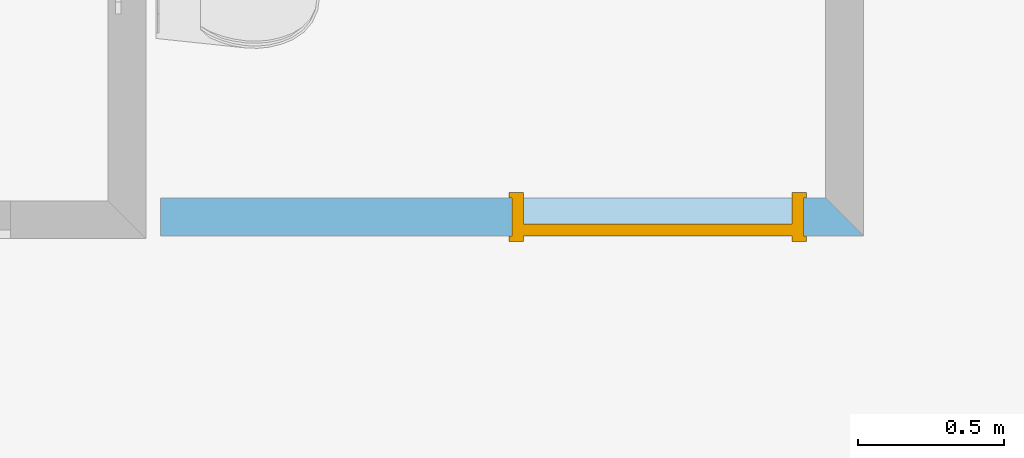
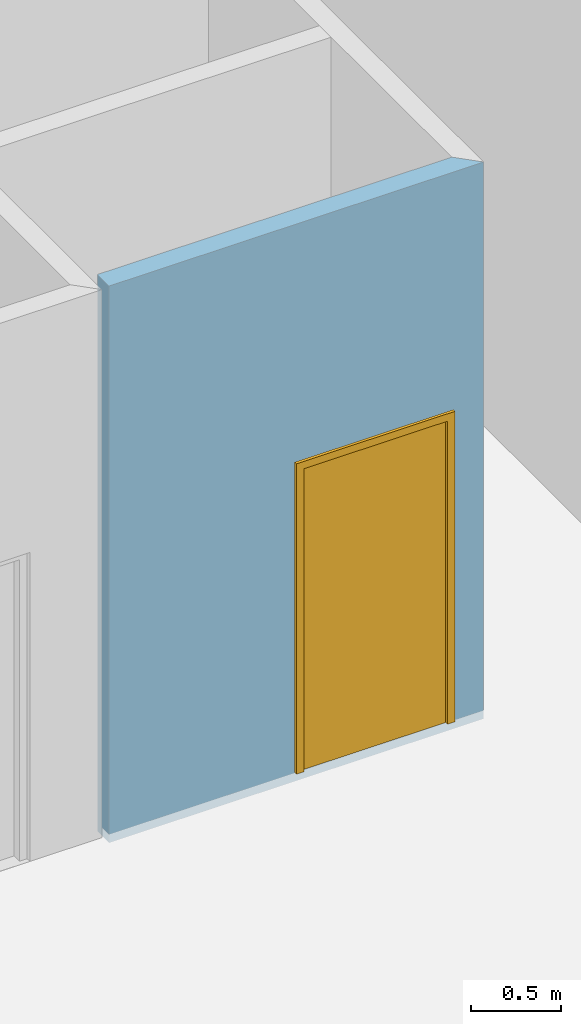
# One storey, part 11 of 17: 1 door, 1 opening, plus 1 element that does not belong to this part.
"""IFC2X3 building model written with IfcOpenShell, lengths in metres."""

from ifc_helpers import new_model, entity, si_unit, converted_unit, money_unit, direction, frame, origin_with_axes, origin_2d_with_axis, place, context, subcontext, project, spatial, polyline, rectangle, outline, extrude, faceted_brep, source, transform, mapped, material, material_list, layer, layer_set, layer_usage, type_object, element, fill, save


model = new_model("IFC2X3")

# Units and contexts
model_context = context("Model", 3, precision=1e-05, world=origin_with_axes(), true_north=direction((0.0, 1.0)))
body_context = subcontext(model_context, "Body", "Model", "MODEL_VIEW")
ifc_project = project(units=[si_unit("LENGTHUNIT", "METRE"), si_unit("AREAUNIT", "SQUARE_METRE"), si_unit("VOLUMEUNIT", "CUBIC_METRE"), converted_unit("PLANEANGLEUNIT", "DEGREE", entity("IfcPlaneAngleMeasure", 0.0174532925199), si_unit("PLANEANGLEUNIT", "RADIAN"), dimensions=[0, 0, 0, 0, 0, 0, 0]), si_unit("SOLIDANGLEUNIT", "STERADIAN"), money_unit("EUR"), converted_unit("TIMEUNIT", "Year", entity("IfcTimeMeasure", 31556926.0), si_unit("TIMEUNIT", "SECOND"), dimensions=[0, 0, 0, 0, 0, 0, 0]), si_unit("MASSUNIT", "GRAM"), si_unit("THERMODYNAMICTEMPERATUREUNIT", "DEGREE_CELSIUS"), si_unit("LUMINOUSINTENSITYUNIT", "LUMEN")], contexts=[model_context])

# Site, building, storey
site_placement = place(None, origin_with_axes())
site = spatial("IfcSite", under=ifc_project, at=site_placement, Name="Undefined", CompositionType="ELEMENT")
building_placement = place(site_placement, origin_with_axes())
building = spatial("IfcBuilding", under=site, at=building_placement, Name="Undefined", CompositionType="ELEMENT")
storey_placement = place(building_placement, frame((0.0, 0.0, 9.425), z_axis=(0.0, 0.0, 1.0), x_axis=(1.0, 0.0, 0.0)))
storey = spatial("IfcBuildingStorey", under=building, at=storey_placement, Name="Mezzannine", CompositionType="ELEMENT", Elevation=9.425)

# Wall, opening, door
ifc_material_1 = material(Name="Finition int - Enduit pl\x89tre")
ifc_layer_1 = layer(ifc_material_1, 0.015, ventilated="UNKNOWN")
ifc_material_2 = material(Name="Struct. - Parpaing b\x8eton")
ifc_layer_2 = layer(ifc_material_2, 0.1, ventilated="UNKNOWN")
ifc_layer_3 = layer(ifc_material_1, 0.015, ventilated="UNKNOWN")
ifc_layer_set = layer_set([ifc_layer_1, ifc_layer_2, ifc_layer_3], Name="0.0-Cloison: parpaing + pl\x89tre 2 faces copie")
ifc_layer_usage = layer_usage(ifc_layer_set, "AXIS2", "POSITIVE", -0.05)
wall_type = type_object("IfcWallType", Name="0.0-Cloison: parpaing + pl\x89tre 2 faces copie 130", PredefinedType="NOTDEFINED")
wall_placement = place(storey_placement, frame((57.015, 9.245, -0.0600000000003), z_axis=(0.0, 0.0, 1.0), x_axis=(1.0, 0.0, 0.0)))
wall = element("IfcWallStandardCase", 1, at=wall_placement, inside=storey, type_object=wall_type, material=ifc_layer_usage, Name="Wall_Int_05", context=body_context, shape_type="SweptSolid", body=[
    extrude(outline(polyline([(0.0, -0.05), (2.41, -0.05), (2.28, 0.08), (0.0, 0.08), (0.0, -0.05)])), origin_with_axes(), (0.0, 0.0, 1.0), 3.785),
])
opening_placement = place(wall_placement, frame((1.70478199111, 0.0, 0.0600000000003), z_axis=(0.0, 0.0, 1.0), x_axis=(1.0, 0.0, 0.0)))
opening = element("IfcOpeningElement", 2, at=opening_placement, cuts=wall, Name="DOOR_1000", context=body_context, shape_type="SweptSolid", body=[
    extrude(rectangle(XDim=1.0, YDim=2.1, at=origin_2d_with_axis()), frame((0.0, 0.13, 1.05), z_axis=(0.0, 1.0, 0.0), x_axis=(1.0, 0.0, 0.0)), (0.0, 0.0, -1.0), 0.39),
    extrude(rectangle(XDim=1.02, YDim=2.11, at=origin_2d_with_axis()), frame((0.0, 0.21, 1.055), z_axis=(0.0, 1.0, 0.0), x_axis=(1.0, 0.0, 0.0)), (0.0, 0.0, -1.0), 0.13),
    extrude(rectangle(XDim=1.02, YDim=2.11, at=origin_2d_with_axis()), frame((0.0, -0.18, 1.055), z_axis=(0.0, -1.0, 0.0), x_axis=(1.0, 0.0, 0.0)), (0.0, 0.0, -1.0), 0.13),
])
ifc_material_3 = material(Name="Empty Fill")
ifc_material_4 = material(Name="Air Space")
ifc_material_5 = material(Name="Foreground")
ifc_material_6 = material(Name="Background Fill-International")
ifc_material_7 = material(Name="Rigid Insulation")
ifc_material_8 = material(Name="Background")
ifc_material_list = material_list([ifc_material_3, ifc_material_4, ifc_material_5, ifc_material_3, ifc_material_6, ifc_material_3, ifc_material_3, ifc_material_7, ifc_material_6, ifc_material_3, ifc_material_3, ifc_material_3, ifc_material_4, ifc_material_8, ifc_material_8, ifc_material_6])
door_style = type_object("IfcDoorStyle", Name="Porte 18", ConstructionType="NOTDEFINED", OperationType="SINGLE_SWING_LEFT", ParameterTakesPrecedence=False, Sizeable=False)
shared_shape = source(origin_with_axes(), body_context, "Body", "Brep", [
    faceted_brep([(0.51, -0.149, 0.0), (0.46, -0.149, 0.0), (0.46, -0.13, 0.0), (0.51, -0.13, 0.0), (0.51, -0.149, 2.11), (0.46, -0.149, 2.06), (0.46, -0.13, 2.06), (0.51, -0.13, 2.11)], [[[0, 1, 2, 3]], [[0, 4, 5, 1]], [[1, 5, 6, 2]], [[3, 2, 6, 7]], [[4, 0, 3, 7]], [[5, 4, 7, 6]]]),
    faceted_brep([(-0.51, -0.149, 2.11), (-0.46, -0.149, 2.06), (-0.46, -0.13, 2.06), (-0.51, -0.13, 2.11), (-0.51, -0.149, 0.0), (-0.46, -0.149, 0.0), (-0.46, -0.13, 0.0), (-0.51, -0.13, 0.0)], [[[0, 1, 2, 3]], [[0, 4, 5, 1]], [[1, 5, 6, 2]], [[3, 2, 6, 7]], [[4, 0, 3, 7]], [[5, 4, 7, 6]]]),
    faceted_brep([(0.51, -0.149, 2.11), (0.46, -0.149, 2.06), (0.46, -0.13, 2.06), (0.51, -0.13, 2.11), (-0.51, -0.149, 2.11), (-0.46, -0.149, 2.06), (-0.46, -0.13, 2.06), (-0.51, -0.13, 2.11)], [[[0, 1, 2, 3]], [[0, 4, 5, 1]], [[1, 5, 6, 2]], [[3, 2, 6, 7]], [[4, 0, 3, 7]], [[5, 4, 7, 6]]]),
    faceted_brep([(0.51, 0.019, 0.0), (0.51, 0.0, 0.0), (0.46, 0.0, 0.0), (0.46, 0.019, 0.0), (0.51, 0.019, 2.11), (0.51, 0.0, 2.11), (0.46, 0.0, 2.06), (0.46, 0.019, 2.06)], [[[0, 1, 2, 3]], [[4, 5, 1, 0]], [[1, 5, 6, 2]], [[3, 2, 6, 7]], [[0, 3, 7, 4]], [[7, 6, 5, 4]]]),
    faceted_brep([(-0.51, 0.019, 2.11), (-0.51, 0.0, 2.11), (-0.46, 0.0, 2.06), (-0.46, 0.019, 2.06), (-0.51, 0.019, 0.0), (-0.51, 0.0, 0.0), (-0.46, 0.0, 0.0), (-0.46, 0.019, 0.0)], [[[0, 1, 2, 3]], [[4, 5, 1, 0]], [[1, 5, 6, 2]], [[3, 2, 6, 7]], [[0, 3, 7, 4]], [[7, 6, 5, 4]]]),
    faceted_brep([(0.51, 0.019, 2.11), (0.51, 0.0, 2.11), (0.46, 0.0, 2.06), (0.46, 0.019, 2.06), (-0.51, 0.019, 2.11), (-0.51, 0.0, 2.11), (-0.46, 0.0, 2.06), (-0.46, 0.019, 2.06)], [[[0, 1, 2, 3]], [[4, 5, 1, 0]], [[1, 5, 6, 2]], [[3, 2, 6, 7]], [[0, 3, 7, 4]], [[7, 6, 5, 4]]]),
    faceted_brep([(0.46, -0.04, 0.0), (0.46, -0.13, 0.0), (0.46, -0.13, 2.06), (0.46, -0.04, 2.06), (0.472, -0.04, 0.0), (0.472, 0.0, 0.0), (0.5, 0.0, 0.0), (0.5, -0.13, 0.0), (0.5, -0.13, 2.06), (0.472, -0.04, 2.06), (0.5, 0.0, 2.06), (0.472, 0.0, 2.06)], [[[0, 1, 2, 3]], [[4, 5, 6, 7, 1, 0]], [[8, 2, 1, 7]], [[9, 3, 2, 8, 10, 11]], [[9, 4, 0, 3]], [[11, 5, 4, 9]], [[11, 10, 6, 5]], [[8, 7, 6, 10]]]),
    faceted_brep([(-0.472, -0.04, 2.06), (-0.472, 0.0, 2.06), (-0.5, 0.0, 2.06), (-0.5, -0.13, 2.06), (-0.46, -0.13, 2.06), (-0.46, -0.04, 2.06), (-0.472, -0.04, 0.0), (-0.472, 0.0, 0.0), (-0.5, 0.0, 0.0), (-0.5, -0.13, 0.0), (-0.46, -0.13, 0.0), (-0.46, -0.04, 0.0)], [[[0, 1, 2, 3, 4, 5]], [[0, 6, 7, 1]], [[7, 8, 2, 1]], [[9, 3, 2, 8]], [[10, 4, 3, 9]], [[5, 4, 10, 11]], [[5, 11, 6, 0]], [[6, 11, 10, 9, 8, 7]]]),
    faceted_brep([(0.472, 0.0, 2.072), (-0.472, 0.0, 2.072), (-0.472, 0.0, 2.06), (-0.5, 0.0, 2.06), (-0.5, 0.0, 2.1), (0.5, 0.0, 2.1), (0.5, 0.0, 2.06), (0.472, 0.0, 2.06), (0.472, -0.04, 2.072), (-0.472, -0.04, 2.072), (-0.472, -0.04, 2.06), (-0.46, -0.04, 2.06), (-0.46, -0.13, 2.06), (-0.5, -0.13, 2.06), (-0.5, -0.13, 2.1), (0.5, -0.13, 2.1), (0.5, -0.13, 2.06), (0.472, -0.04, 2.06), (0.46, -0.13, 2.06), (0.46, -0.04, 2.06)], [[[0, 1, 2, 3, 4, 5, 6, 7]], [[0, 8, 9, 1]], [[1, 9, 10, 2]], [[10, 11, 12, 13, 3, 2]], [[13, 14, 4, 3]], [[14, 15, 5, 4]], [[15, 16, 6, 5]], [[17, 7, 6, 16, 18, 19]], [[7, 17, 8, 0]], [[10, 9, 8, 17, 19, 11]], [[19, 18, 12, 11]], [[14, 13, 12, 18, 16, 15]]]),
    faceted_brep([(-0.472, 0.0, 0.0), (0.472, 0.0, 0.0), (0.472, -0.04, 0.0), (-0.472, -0.04, 0.0), (-0.472, 0.0, 2.072), (0.472, 0.0, 2.072), (0.472, -0.04, 2.072), (-0.472, -0.04, 2.072)], [[[0, 1, 2, 3]], [[0, 4, 5, 1]], [[1, 5, 6, 2]], [[3, 2, 6, 7]], [[4, 0, 3, 7]], [[5, 4, 7, 6]]]),
])
door_placement = place(opening_placement, frame((0.5, 0.0, 0.0), z_axis=(0.0, 0.0, 1.0), x_axis=(-1.0, 0.0, 0.0)))
door = element("IfcDoor", 3, at=door_placement, inside=storey, type_object=door_style, material=ifc_material_list, Name="DOOR_1000", ObjectType="DOOR", OverallHeight=2.1, OverallWidth=1.0, context=body_context, shape_type="MappedRepresentation", body=[
    mapped(shared_shape, transform((0.5, 0.05, 0.0))),
])
fill(opening, door)

save(model, "model.ifc")
